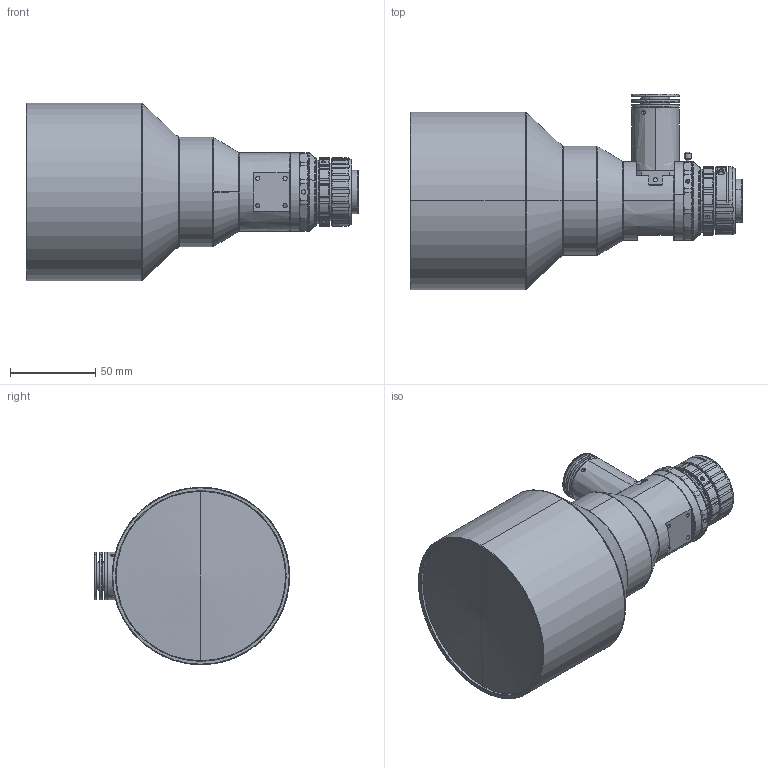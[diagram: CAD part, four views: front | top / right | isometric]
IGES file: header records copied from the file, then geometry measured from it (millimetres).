
Start section: SolidWorks IGES file using analytic representation for surfaces
Bounding box: 194.54 x 114.4 x 104 mm (x, y, z)
Surface area: 70280.3 mm2 (no closed solid volume)
Topology: 0 solids, 0 shells, 566 faces, 8528 edges, 8512 vertices
Faces by surface type: revolution 434, bspline 132
